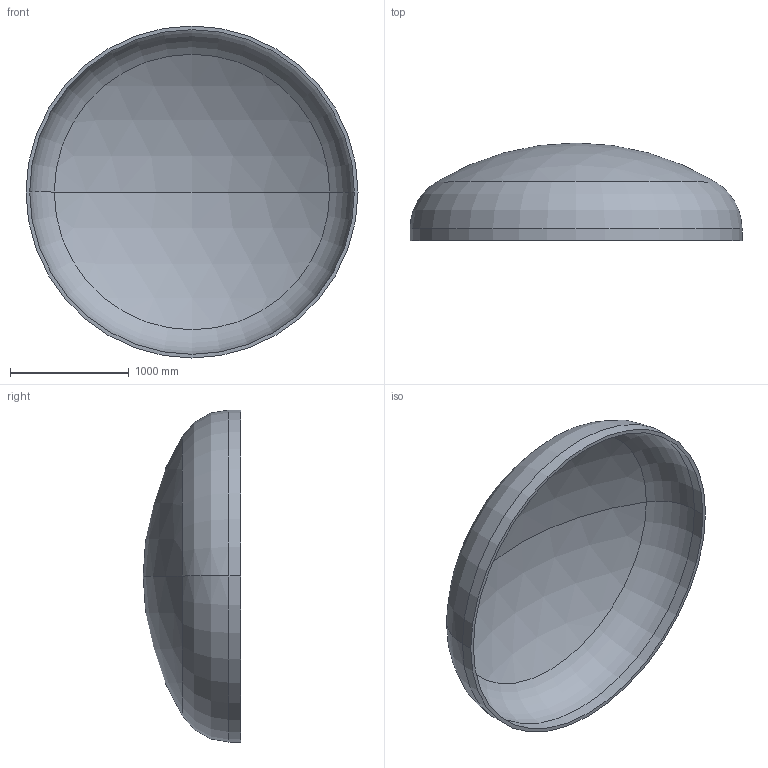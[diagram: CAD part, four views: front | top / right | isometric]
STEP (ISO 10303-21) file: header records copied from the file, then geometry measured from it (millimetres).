
FILE_DESCRIPTION (( 'STEP AP203' ), '1' );
FILE_NAME ('DIN 28013 Korbbogenform_-_Boden DIN 28013 - 2800 x 100 - I - s=31.step', '2016-07-01T16:52:58', ( '' ), ( '' ), 'SwSTEP 2.0', 'SolidWorks 2013', '' );
FILE_SCHEMA (( 'CONFIG_CONTROL_DESIGN' ));
Length unit declared in the file: millimetre
Products named in the file (1): DIN 28013 Korbbogenform_-_Boden DIN 28013 - 2800 x 100 - I - s=31
Bounding box: 2800 x 823.62 x 2800 mm (x, y, z)
Volume: 287352762.5 mm3; surface area: 18810565.1 mm2
Topology: 1 solids, 1 shells, 13 faces, 24 edges, 14 vertices
Faces by surface type: torus 4, cylinder 4, sphere 4, plane 1
Entity records: 407 total; most frequent: DIRECTION 72, CARTESIAN_POINT 52, ORIENTED_EDGE 48, AXIS2_PLACEMENT_3D 34, EDGE_CURVE 24, CIRCLE 20, EDGE_LOOP 14, VERTEX_POINT 14
